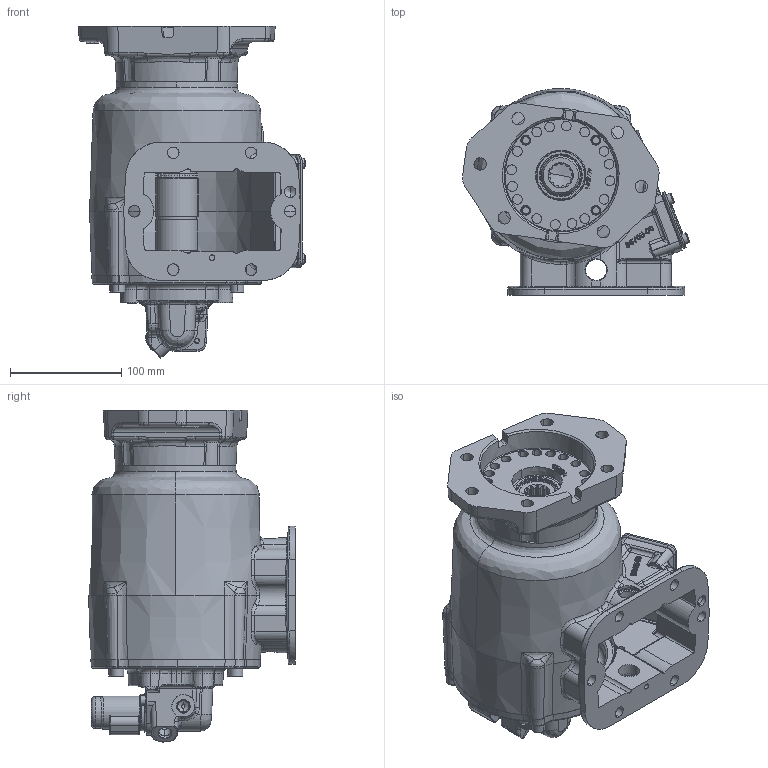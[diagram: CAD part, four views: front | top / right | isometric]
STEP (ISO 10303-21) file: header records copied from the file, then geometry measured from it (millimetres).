
FILE_DESCRIPTION (( 'STEP AP203' ), '1' );
FILE_NAME ('CS6B-XXXXX-S3PX.STEP', '2023-05-24T13:22:29', ( '' ), ( '' ), 'SwSTEP 2.0', 'SolidWorks 2021', '' );
FILE_SCHEMA (( 'CONFIG_CONTROL_DESIGN' ));
Length unit declared in the file: inch
Products named in the file (18): CS6B-XXXXX-S3PX; 19T40859; 16T41119; 19T35237; 12T36471; CS6_8 OUTPUT SHAFTS_06T37090; 25T21684; 01T37072-01; 63585; 11T36124-1; 12T34003; 14TA3996; 19T36174; 15T41597; 24T36894; 35T40860-2; 63584; 19T41118
Assembly tree (29 placements, depth 3):
  CS6B-XXXXX-S3PX
    01T37072-01
    16T41119
    12T34003
    25T21684  x2
    19T41118  x4
    19T36174  x4
    CS6_8 OUTPUT SHAFTS_06T37090
    11T36124-1
    24T36894
    12T36471  x2
    15T41597
    35T40860-2
    19T35237  x4
    19T40859  x2
    14TA3996
      63585
      63584
Bounding box: 203.75 x 185.25 x 297.84 mm (x, y, z)
Volume: 1661053.3 mm3; surface area: 472728.9 mm2
Topology: 29 solids, 29 shells, 3330 faces, 8400 edges, 5200 vertices
Faces by surface type: bspline 1031, plane 927, cylinder 794, cone 365, torus 192, sphere 21
Entity records: 184236 total; most frequent: CARTESIAN_POINT 115605, ORIENTED_EDGE 15498, DIRECTION 11089, EDGE_CURVE 7749, VERTEX_POINT 4865, AXIS2_PLACEMENT_3D 4121, EDGE_LOOP 3370, FACE_OUTER_BOUND 3073
